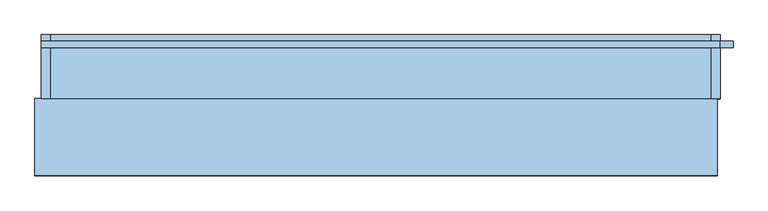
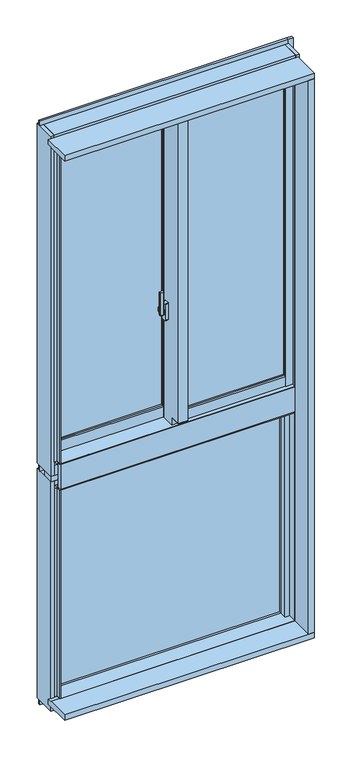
"""IFC4 building model written with IfcOpenShell, lengths in millimetres: window geometry, FNSⅡ100R_非防火_面付枠_段窓_分解無目 : 隠蔽突出排煙/框ドア."""

import ifcopenshell
import ifcopenshell.guid

model = None  # the IFC model being written
_history = None  # IfcOwnerHistory: only IFC2X3 demands one
_inside = {}  # id of a spatial element -> (the spatial element, [elements in it])
_under = {}  # id of a project, library or spatial element -> (it, [spatial elements below it])
_declared = {}  # id of a project -> (the project, [libraries it declares])
_typed = {}  # id of a type object -> (the type object, [elements of that type])
_made_of = {}  # id of a material, layer set ... -> (it, [elements and type objects made of it])


def new_model(schema):
    """Start an empty IFC model of exactly this schema.

    Asked for "IFC4X3", IfcOpenShell would pick the latest addendum, in which some entities
    have other attributes; the version numbers below select the first issue.
    IFC2X3 requires an IfcOwnerHistory on every rooted entity: one is made here for all.
    """
    global model, _history
    if schema == "IFC4X3":
        model = ifcopenshell.file(schema_version=(4, 3, 0, 0))
    else:
        model = ifcopenshell.file(schema=schema)
    _inside.clear()
    _under.clear()
    _declared.clear()
    _typed.clear()
    _made_of.clear()
    _history = None
    if model.schema == "IFC2X3":
        org = make("IfcOrganization", Name="unknown")
        user = make(
            "IfcPersonAndOrganization",
            ThePerson=make("IfcPerson", FamilyName="unknown"),
            TheOrganization=org,
        )
        app = make(
            "IfcApplication",
            ApplicationDeveloper=org,
            Version="unknown",
            ApplicationFullName="unknown",
            ApplicationIdentifier="unknown",
        )
        _history = make(
            "IfcOwnerHistory",
            OwningUser=user,
            OwningApplication=app,
            ChangeAction="ADDED",
            CreationDate=0,
        )
    return model


def make(cls, **values):
    """One entity of the class cls with the attributes given. An attribute that is None is left unset."""
    return model.create_entity(
        cls, **{name: value for name, value in values.items() if value is not None}
    )


def rooted(cls, **values):
    """An entity with a GlobalId (a new one), such as an element, a storey or a relation."""
    return make(cls, GlobalId=ifcopenshell.guid.new(), OwnerHistory=_history, **values)


def si_unit(unit_type, name, prefix=None):
    """IfcSIUnit, for example si_unit("LENGTHUNIT", "METRE", prefix="MILLI")."""
    return make("IfcSIUnit", UnitType=unit_type, Prefix=prefix, Name=name)


def assignment(units):
    """IfcUnitAssignment: the units of a project."""
    return None if units is None else make("IfcUnitAssignment", Units=units)


def point(xyz):
    """IfcCartesianPoint."""
    return None if xyz is None else make("IfcCartesianPoint", Coordinates=xyz)


def direction(xyz):
    """IfcDirection."""
    return None if xyz is None else make("IfcDirection", DirectionRatios=xyz)


def frame(location, z_axis=None, x_axis=None):
    """IfcAxis2Placement3D, a coordinate frame: its origin and axes. An axis left out is left unset."""
    return make(
        "IfcAxis2Placement3D",
        Location=point(location),
        Axis=direction(z_axis),
        RefDirection=direction(x_axis),
    )


def frame_2d(location, x_axis=None):
    """IfcAxis2Placement2D, a coordinate frame in the plane: its origin and x axis."""
    return make(
        "IfcAxis2Placement2D", Location=point(location), RefDirection=direction(x_axis)
    )


def origin():
    """The frame at (0, 0, 0) with its axes left unset."""
    return frame((0.0, 0.0, 0.0))


def place(relative_to, where):
    """IfcLocalPlacement: puts the frame where relative to a parent placement (None: the world)."""
    return make(
        "IfcLocalPlacement", PlacementRelTo=relative_to, RelativePlacement=where
    )


def context(
    kind, dimensions, precision=None, world=None, true_north=None, identifier=None
):
    """IfcGeometricRepresentationContext, for example the 3D "Model" context."""
    return make(
        "IfcGeometricRepresentationContext",
        ContextIdentifier=identifier,
        ContextType=kind,
        CoordinateSpaceDimension=dimensions,
        Precision=precision,
        WorldCoordinateSystem=world,
        TrueNorth=true_north,
    )


def project(units=None, contexts=None):
    """IfcProject with its units and contexts."""
    return rooted(
        "IfcProject",
        Name="project",
        RepresentationContexts=contexts,
        UnitsInContext=assignment(units),
    )


def spatial(cls, under=None, at=None, **own):
    """A site, building, storey or space (cls), placed at a placement, below another one or the project."""
    s = rooted(cls, ObjectPlacement=at, **own)
    if under is not None:
        _under.setdefault(under.id(), (under, []))[1].append(s)
    return s


def polyline(points):
    """IfcPolyline through the points."""
    return make("IfcPolyline", Points=[point(p) for p in points])


def circle_curve(where, radius):
    """IfcCircle in the frame where."""
    return make("IfcCircle", Position=where, Radius=radius)


def trimmed(basis, trim1, trim2, sense, master):
    """IfcTrimmedCurve: the piece of a basis curve between two trims."""
    return make(
        "IfcTrimmedCurve",
        BasisCurve=basis,
        Trim1=trim1,
        Trim2=trim2,
        SenseAgreement=sense,
        MasterRepresentation=master,
    )


def segment(curve, same_sense, transition):
    """IfcCompositeCurveSegment."""
    return make(
        "IfcCompositeCurveSegment",
        Transition=transition,
        SameSense=same_sense,
        ParentCurve=curve,
    )


def composite_curve(segments, self_intersect=None):
    """IfcCompositeCurve: segments joined end to end."""
    return make("IfcCompositeCurve", Segments=segments, SelfIntersect=self_intersect)


def outline(outer, holes=None, kind="AREA"):
    """IfcArbitraryClosedProfileDef: a profile drawn as a closed curve; with holes, ...WithVoids."""
    if holes is None:
        return make("IfcArbitraryClosedProfileDef", ProfileType=kind, OuterCurve=outer)
    return make(
        "IfcArbitraryProfileDefWithVoids",
        ProfileType=kind,
        OuterCurve=outer,
        InnerCurves=holes,
    )


def extrude(swept, where, along, depth):
    """IfcExtrudedAreaSolid: the profile swept, set in the frame where, extruded along a direction by depth."""
    return make(
        "IfcExtrudedAreaSolid",
        SweptArea=swept,
        Position=where,
        ExtrudedDirection=direction(along),
        Depth=depth,
    )


def faces_of(points, faces, orient=None, outer=None):
    """IfcFace entities. A face is a list of loops; a loop is a list of indices into points, from 0.

    orient and outer hold one flag for each loop. By default every Orientation is true, the
    first loop of a face is its IfcFaceOuterBound and the others are IfcFaceBound.
    """
    made = []
    for i, loops in enumerate(faces):
        bounds = []
        for j, loop in enumerate(loops):
            is_outer = j == 0 if outer is None else outer[i][j]
            bounds.append(
                make(
                    "IfcFaceOuterBound" if is_outer else "IfcFaceBound",
                    Bound=make("IfcPolyLoop", Polygon=[points[k] for k in loop]),
                    Orientation=True if orient is None else orient[i][j],
                )
            )
        made.append(make("IfcFace", Bounds=bounds))
    return made


def faceted_brep(points, faces, orient=None, outer=None, voids=None):
    """IfcFacetedBrep: a solid bounded by flat faces; with voids (closed shells), ...WithVoids."""
    shared = [point(p) for p in points]
    hull = make("IfcClosedShell", CfsFaces=faces_of(shared, faces, orient, outer))
    if voids is None:
        return make("IfcFacetedBrep", Outer=hull)
    return make(
        "IfcFacetedBrepWithVoids",
        Outer=hull,
        Voids=[
            make(cls, CfsFaces=faces_of(shared, fs, o, b)) for cls, fs, o, b in voids
        ],
    )


def shape(context_of_items, identifier, shape_type, items):
    """IfcShapeRepresentation: the items that make up one representation, for example the "Body"."""
    return make(
        "IfcShapeRepresentation",
        ContextOfItems=context_of_items,
        RepresentationIdentifier=identifier,
        RepresentationType=shape_type,
        Items=items,
    )


def source(mapping_origin, context_of_items, identifier, shape_type, items):
    """IfcRepresentationMap: a shape defined once, which mapped items show again and again."""
    return make(
        "IfcRepresentationMap",
        MappingOrigin=mapping_origin,
        MappedRepresentation=shape(context_of_items, identifier, shape_type, items),
    )


def transform(
    local_origin,
    x_axis=None,
    y_axis=None,
    z_axis=None,
    scale=None,
    scale2=None,
    scale3=None,
    uniform=True,
):
    """IfcCartesianTransformationOperator3D, or its non-uniform kind. x_axis, y_axis, z_axis: its Axis1, 2, 3."""
    if uniform:
        return make(
            "IfcCartesianTransformationOperator3D",
            Axis1=direction(x_axis),
            Axis2=direction(y_axis),
            LocalOrigin=point(local_origin),
            Scale=scale,
            Axis3=direction(z_axis),
        )
    return make(
        "IfcCartesianTransformationOperator3DnonUniform",
        Axis1=direction(x_axis),
        Axis2=direction(y_axis),
        LocalOrigin=point(local_origin),
        Scale=scale,
        Axis3=direction(z_axis),
        Scale2=scale2,
        Scale3=scale3,
    )


def mapped(mapping_source, mapping_target):
    """IfcMappedItem: shows the shape of a source again, moved by a transform."""
    return make(
        "IfcMappedItem", MappingSource=mapping_source, MappingTarget=mapping_target
    )


def made_of(thing, what):
    """Note that an element or type object is made of a material, layer set ...; save() writes the relation."""
    if what is not None:
        _made_of.setdefault(what.id(), (what, []))[1].append(thing)
    return thing


def element(
    cls,
    number,
    at=None,
    inside=None,
    cuts=None,
    type_object=None,
    material=None,
    context=None,
    identifier="Body",
    shape_type=None,
    held_by="IfcProductDefinitionShape",
    body=None,
    shapes=None,
    **own,
):
    """One element of the class cls, such as IfcWall. Its Tag is "e" and its number.

    at: its placement. inside: the storey or other place that contains it. cuts: it is an
    opening in that element (IfcRelVoidsElement). A single representation is given by context,
    identifier, shape_type and body (its items); several are given by shapes. held_by: the class
    of the entity that holds the representations. save() writes the other relations.
    """
    e = rooted(cls, Tag="e%d" % number, ObjectPlacement=at, **own)
    if body is not None:
        shapes = [shape(context, identifier, shape_type, body)]
    if shapes is not None:
        e.Representation = make(held_by, Representations=shapes)
    if inside is not None:
        _inside.setdefault(inside.id(), (inside, []))[1].append(e)
    if cuts is not None:
        rooted(
            "IfcRelVoidsElement", RelatingBuildingElement=cuts, RelatedOpeningElement=e
        )
    if type_object is not None:
        _typed.setdefault(type_object.id(), (type_object, []))[1].append(e)
    return made_of(e, material)


def aggregate(whole, parts):
    """IfcRelAggregates: a whole, such as a stair, and the parts it consists of."""
    return rooted("IfcRelAggregates", RelatingObject=whole, RelatedObjects=parts)


def save(model, path):
    """Write the relations noted so far, then the file.

    IfcRelAggregates (storeys below a building ...), IfcRelContainedInSpatialStructure (elements
    in a storey), IfcRelDefinesByType, IfcRelAssociatesMaterial and IfcRelDeclares: one each for
    every whole, place, type object, material and project.
    """
    for whole, parts in _under.values():
        aggregate(whole, parts)
    for where, things in _inside.values():
        rooted(
            "IfcRelContainedInSpatialStructure",
            RelatedElements=things,
            RelatingStructure=where,
        )
    for kind, things in _typed.values():
        rooted("IfcRelDefinesByType", RelatedObjects=things, RelatingType=kind)
    for what, things in _made_of.values():
        rooted("IfcRelAssociatesMaterial", RelatedObjects=things, RelatingMaterial=what)
    for by, libraries in _declared.values():
        rooted("IfcRelDeclares", RelatingContext=by, RelatedDefinitions=libraries)
    model.write(path)


def plane_surface(at):
    """IfcPlane: the flat surface through the origin of the frame at, square to its z axis."""
    return make("IfcPlane", Position=at)


def cylinder_surface(at, radius):
    """IfcCylindricalSurface: all points at the distance radius from the z axis of the frame at."""
    return make("IfcCylindricalSurface", Position=at, Radius=radius)


def revolved_surface(curve, axis_point, axis_direction):
    """IfcSurfaceOfRevolution: the curve turned about the line through axis_point along axis_direction."""
    return make(
        "IfcSurfaceOfRevolution",
        SweptCurve=make("IfcArbitraryOpenProfileDef", ProfileType="CURVE", Curve=curve),
        AxisPosition=make("IfcAxis1Placement", Location=point(axis_point), Axis=direction(axis_direction)),
    )


def advanced_brep(points, edges, surfaces, faces):
    """IfcAdvancedBrep: a solid bounded by faces that lie on surfaces and meet in shared edges.

    An edge is (start, end): straight between two places in points (the first is 0);
    or (start, end, curve); or (start, end, curve, False) where it runs against its curve.
    A face is (place in surfaces, loops), or (place, loops, False) where it looks against
    its surface's normal. A loop lists edges by number (the first is 1), with a minus sign
    where the edge is run from its end to its start. The first loop is the outer one.
    """
    corners = [point(p) for p in points]
    vertices = [make("IfcVertexPoint", VertexGeometry=c) for c in corners]
    made = []
    for start, end, *more in edges:
        made.append(
            make(
                "IfcEdgeCurve",
                EdgeStart=vertices[start],
                EdgeEnd=vertices[end],
                EdgeGeometry=more[0] if more else make("IfcPolyline", Points=[corners[start], corners[end]]),
                SameSense=more[1] if len(more) > 1 else True,
            )
        )
    hull = []
    for where, loops, *sense in faces:
        bounds = []
        for j, loop in enumerate(loops):
            ring = [make("IfcOrientedEdge", EdgeElement=made[abs(k) - 1], Orientation=k > 0) for k in loop]
            bounds.append(
                make(
                    "IfcFaceOuterBound" if j == 0 else "IfcFaceBound",
                    Bound=make("IfcEdgeLoop", EdgeList=ring),
                    Orientation=True,
                )
            )
        hull.append(make("IfcAdvancedFace", Bounds=bounds, FaceSurface=surfaces[where], SameSense=sense[0] if sense else True))
    return make("IfcAdvancedBrep", Outer=make("IfcClosedShell", CfsFaces=hull))


def window_3c39c778(model_context):
    return source(origin(), model_context, "Body", "SolidModel", [
        extrude(outline(composite_curve([segment(polyline([(-39.0, 34.6), (-39.0, 26.4)]), True, "CONTINUOUS"), segment(trimmed(circle_curve(frame_2d((-41.0, 26.4)), 2.0), [point((-39.0, 26.4))], [point((-41.3606557, 24.4327869))], False, "CARTESIAN"), True, "CONTINUOUS"), segment(polyline([(-41.3606557, 24.4327869), (-52.3606557, 26.4494536)]), True, "CONTINUOUS"), segment(trimmed(circle_curve(frame_2d((-52.0, 28.4166667)), 2.0), [point((-52.3606557, 26.4494536))], [point((-54.0, 28.4166667))], False, "CARTESIAN"), True, "CONTINUOUS"), segment(polyline([(-54.0, 28.4166667), (-54.0, 32.5833333)]), True, "CONTINUOUS"), segment(trimmed(circle_curve(frame_2d((-52.0, 32.5833333)), 2.0), [point((-54.0, 32.5833333))], [point((-52.3606557, 34.5505464))], False, "CARTESIAN"), True, "CONTINUOUS"), segment(polyline([(-52.3606557, 34.5505464), (-41.3606557, 36.5672131)]), True, "CONTINUOUS"), segment(trimmed(circle_curve(frame_2d((-41.0, 34.6)), 2.0), [point((-41.3606557, 36.5672131))], [point((-39.0, 34.6))], False, "CARTESIAN"), True, "CONTINUOUS")], self_intersect=False)), frame((0.0, 0.0, 2450.0), z_axis=(0.0, 0.0, 1.0), x_axis=(1.0, 0.0, 0.0)), (0.0, 0.0, 1.0), 100.0),
        advanced_brep(
        [(-37.5, 38.8234285, 2481.7333311), (-45.5, 38.8234285, 2481.7333311), (-45.5, 38.4351999, 2480.2844424), (-39.0, 38.4351999, 2480.2844424), (-39.0, 36.6234666, 2473.5229616), (-37.5, 36.6234666, 2473.5229616), (-39.0, 36.6466117, 2439.3190372), (-45.5, 36.6466117, 2439.3190372), (-45.5, 36.907084, 2437.8418256), (-37.5, 36.907084, 2437.8418256), (-37.5, 35.4310745, 2446.2126915), (-39.0, 35.4310745, 2446.2126915)],
        [
            (0, 1),
            (1, 2),
            (2, 3),
            (3, 4),
            (4, 5),
            (5, 0),
            (6, 7),
            (7, 8),
            (8, 9),
            (9, 10),
            (10, 11),
            (11, 6),
            (0, 9, circle_curve(frame((-37.5, 33.0, 2460.0), z_axis=(-1.0, 0.0, 0.0), x_axis=(0.0, 0.25881904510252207, 0.965925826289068)), 22.5)),
            (8, 1, circle_curve(frame((-45.5, 33.0, 2460.0), z_axis=(1.0, 0.0, 0.0), x_axis=(0.0, 0.25881904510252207, 0.965925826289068)), 22.5)),
            (7, 2, circle_curve(frame((-45.5, 33.0, 2460.0), z_axis=(1.0, 0.0, 0.0), x_axis=(0.0, 0.25881904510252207, 0.965925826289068)), 21.0)),
            (6, 3, circle_curve(frame((-39.0, 33.0, 2460.0), z_axis=(1.0, 0.0, 0.0), x_axis=(0.0, 0.25881904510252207, 0.965925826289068)), 21.0)),
            (11, 4, circle_curve(frame((-39.0, 33.0, 2460.0), z_axis=(-1.0, 0.0, 0.0), x_axis=(0.0, -1.0, 0.0)), 14.0)),
            (5, 10, circle_curve(frame((-37.5, 33.0, 2460.0), z_axis=(1.0, 0.0, 0.0), x_axis=(0.0, -1.0, 0.0)), 14.0)),
        ],
        [
            plane_surface(frame((-43.5470497, 33.0, 2460.0), z_axis=(0.0, -0.965925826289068, 0.25881904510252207), x_axis=(0.0, 0.25881904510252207, 0.965925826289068))),
            plane_surface(frame((-43.5470497, 33.0, 2460.0), z_axis=(0.0, -0.9848077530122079, -0.17364817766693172), x_axis=(0.0, 0.17364817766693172, -0.9848077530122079))),
            cylinder_surface(frame((-43.5470497, 33.0, 2460.0), z_axis=(-1.0, 0.0, 0.0), x_axis=(0.0, 0.25881904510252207, 0.965925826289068)), 22.5),
            plane_surface(frame((-45.5, 33.0, 2460.0), z_axis=(-1.0, 0.0, 0.0), x_axis=(0.0, 0.25881904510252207, 0.965925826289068))),
            revolved_surface(polyline([(-45.5, 38.43519994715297, 2480.2844423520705), (-39.0, 38.43519994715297, 2480.2844423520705)]), (-43.5470497, 33.0, 2460.0), (-1.0, 0.0, 0.0)),
            plane_surface(frame((-39.0, 33.0, 2460.0), z_axis=(-1.0, 0.0, 0.0), x_axis=(0.0, 0.25881904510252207, 0.965925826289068))),
            plane_surface(frame((-37.5, 33.0, 2460.0), z_axis=(1.0, 0.0, 0.0), x_axis=(0.0, 0.25881904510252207, 0.965925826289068))),
            cylinder_surface(frame((-37.5, 33.0, 2460.0), z_axis=(-1.0, 0.0, 0.0), x_axis=(0.0, -1.0, 0.0)), 14.0),
        ],
        [
            (0, [[1, 2, 3, 4, 5, 6]]),
            (1, [[7, 8, 9, 10, 11, 12]]),
            (2, [[-1, 13, -9, 14]]),
            (3, [[-2, -14, -8, 15]]),
            (4, [[-3, -15, -7, 16]]),
            (5, [[-16, -12, 17, -4]]),
            (6, [[-13, -6, 18, -10]]),
            (7, [[-17, -11, -18, -5]]),
        ],
    ),
        extrude(outline(composite_curve([segment(trimmed(circle_curve(frame_2d((33.0, 2460.0)), 11.5), [point((44.5, 2460.0))], [point((21.5, 2460.0))], False, "CARTESIAN"), True, "CONTINUOUS"), segment(trimmed(circle_curve(frame_2d((33.0, 2460.0)), 11.5), [point((21.5, 2460.0))], [point((44.5, 2460.0))], False, "CARTESIAN"), True, "CONTINUOUS")], self_intersect=False)), frame((-37.5, 0.0, 0.0), z_axis=(1.0, 0.0, 0.0), x_axis=(0.0, 1.0, 0.0)), (0.0, 0.0, 1.0), 2.5),
        extrude(outline(composite_curve([segment(polyline([(24.0, 2497.5), (42.0, 2497.5)]), True, "CONTINUOUS"), segment(trimmed(circle_curve(frame_2d((42.0, 2495.5)), 2.0), [point((42.0, 2497.5))], [point((44.0, 2495.5))], False, "CARTESIAN"), True, "CONTINUOUS"), segment(polyline([(44.0, 2495.5), (44.0, 2424.5)]), True, "CONTINUOUS"), segment(trimmed(circle_curve(frame_2d((42.0, 2424.5)), 2.0), [point((44.0, 2424.5))], [point((42.0, 2422.5))], False, "CARTESIAN"), True, "CONTINUOUS"), segment(polyline([(42.0, 2422.5), (24.0, 2422.5)]), True, "CONTINUOUS"), segment(trimmed(circle_curve(frame_2d((24.0, 2424.5)), 2.0), [point((24.0, 2422.5))], [point((22.0, 2424.5))], False, "CARTESIAN"), True, "CONTINUOUS"), segment(polyline([(22.0, 2424.5), (22.0, 2495.5)]), True, "CONTINUOUS"), segment(trimmed(circle_curve(frame_2d((24.0, 2495.5)), 2.0), [point((22.0, 2495.5))], [point((24.0, 2497.5))], False, "CARTESIAN"), True, "CONTINUOUS")], self_intersect=False)), frame((-35.0, 0.0, 0.0), z_axis=(1.0, 0.0, 0.0), x_axis=(0.0, 1.0, 0.0)), (0.0, 0.0, 1.0), 15.0),
        extrude(outline(polyline([(20.0, 24.0), (468.0, 24.0), (468.0, 18.0), (20.0, 18.0), (20.0, 24.0)])), frame((0.0, 0.0, 2008.0), z_axis=(0.0, 0.0, 1.0), x_axis=(1.0, 0.0, 0.0)), (0.0, 0.0, 1.0), 1352.0),
        extrude(outline(polyline([(20.0, 42.0), (468.0, 42.0), (468.0, 36.0), (20.0, 36.0), (20.0, 42.0)])), frame((0.0, 0.0, 2008.0), z_axis=(0.0, 0.0, 1.0), x_axis=(1.0, 0.0, 0.0)), (0.0, 0.0, 1.0), 1352.0),
        extrude(outline(polyline([(-468.0, 82.0), (-20.0, 82.0), (-20.0, 76.0), (-468.0, 76.0), (-468.0, 82.0)])), frame((0.0, 0.0, 2008.0), z_axis=(0.0, 0.0, 1.0), x_axis=(1.0, 0.0, 0.0)), (0.0, 0.0, 1.0), 1352.0),
        extrude(outline(polyline([(-468.0, 100.0), (-20.0, 100.0), (-20.0, 94.0), (-468.0, 94.0), (-468.0, 100.0)])), frame((0.0, 0.0, 2008.0), z_axis=(0.0, 0.0, 1.0), x_axis=(1.0, 0.0, 0.0)), (0.0, 0.0, 1.0), 1352.0),
        faceted_brep([(-500.0, 79.0, 3400.0), (-489.5, 79.0, 3400.0), (-489.5, 66.0, 3400.0), (-468.0, 66.0, 3400.0), (-468.0, 108.0, 3400.0), (-500.0, 108.0, 3400.0), (-468.0, 79.0, 1920.0), (-500.0, 79.0, 1920.0), (-500.0, 108.0, 1920.0), (-468.0, 108.0, 1920.0), (-468.0, 79.0, 1960.0), (-489.5, 79.0, 1960.0), (-489.5, 66.0, 1960.0), (-468.0, 66.0, 1960.0)], [[[0, 1, 2, 3, 4, 5]], [[6, 7, 8, 9]], [[1, 0, 7, 6, 10, 11]], [[2, 1, 11, 12]], [[3, 2, 12, 13]], [[4, 3, 13, 10, 6, 9]], [[5, 4, 9, 8]], [[7, 0, 5, 8]], [[11, 10, 13, 12]]]),
        faceted_brep([(-20.0, 65.5, 3400.0), (-1.8, 65.5, 3400.0), (-1.8, 53.1, 3400.0), (20.0, 53.1, 3400.0), (20.0, 108.0, 3400.0), (-20.0, 108.0, 3400.0), (-20.0, 108.0, 1920.0), (20.0, 108.0, 1920.0), (20.0, 79.0, 1920.0), (-20.0, 79.0, 1920.0), (-20.0, 65.5, 1960.0), (-1.8, 65.5, 1960.0), (-1.8, 53.1, 1960.0), (20.0, 53.1, 1960.0), (20.0, 79.0, 1960.0), (-20.0, 79.0, 1960.0)], [[[0, 1, 2, 3, 4, 5]], [[6, 7, 8, 9]], [[1, 0, 10, 11]], [[2, 1, 11, 12]], [[3, 2, 12, 13]], [[4, 3, 13, 14, 8, 7]], [[5, 4, 7, 6]], [[0, 5, 6, 9, 15, 10]], [[14, 15, 9, 8]], [[15, 14, 13, 12, 11, 10]]]),
        faceted_brep([(-15.0, 53.1, 3400.0), (-20.0, 53.1, 3400.0), (-20.0, 0.0, 3400.0), (-15.0, 0.0, 3400.0), (20.0, 12.0, 3400.0), (15.0, 12.0, 3400.0), (15.0, 0.0, 3400.0), (20.0, 0.0, 3400.0), (-20.0, 53.1, 1960.0), (-15.0, 53.1, 1960.0), (-15.0, 0.0, 1960.0), (-20.0, 0.0, 1960.0), (15.0, 12.0, 1960.0), (20.0, 12.0, 1960.0), (20.0, 0.0, 1960.0), (15.0, 0.0, 1960.0), (-20.0, 0.0, 1996.5), (-20.0, -50.0, 1996.5), (-20.0, -50.0, 3371.0), (-20.0, 0.0, 3371.0), (20.0, -50.0, 1996.5), (20.0, -50.0, 3371.0), (20.0, 0.0, 3371.0), (20.0, 0.0, 1996.5), (15.0, -42.0, 3371.0), (15.0, -42.0, 1996.5), (-15.0, -42.0, 1996.5), (-15.0, -42.0, 3371.0), (-15.0, 0.0, 3371.0), (-15.0, 0.0, 1996.5), (15.0, 0.0, 1996.5), (15.0, 0.0, 3371.0)], [[[0, 1, 2, 3]], [[4, 5, 6, 7]], [[8, 9, 10, 11]], [[12, 13, 14, 15]], [[1, 8, 11, 16, 17, 18, 19, 2]], [[18, 17, 20, 21]], [[13, 4, 7, 22, 21, 20, 23, 14]], [[24, 25, 26, 27]], [[9, 0, 3, 28, 27, 26, 29, 10]], [[1, 0, 9, 8]], [[5, 4, 13, 12]], [[5, 12, 15, 30, 25, 24, 31, 6]], [[29, 16, 11, 10]], [[23, 30, 15, 14]], [[16, 29, 26, 25, 30, 23, 20, 17]], [[28, 19, 18, 21, 22, 31, 24, 27]], [[19, 28, 3, 2]], [[31, 22, 7, 6]]]),
        faceted_brep([(15.0, 12.0, 3400.0), (20.0, 12.0, 3400.0), (20.0, 53.1, 3400.0), (-15.0, 53.1, 3400.0), (-15.0, 0.0, 3400.0), (15.0, 0.0, 3400.0), (-15.0, 53.1, 1960.0), (20.0, 53.1, 1960.0), (20.0, 12.0, 1960.0), (15.0, 12.0, 1960.0), (15.0, 0.0, 1960.0), (-15.0, 0.0, 1960.0), (-15.0, 0.0, 1996.5), (-15.0, -42.0, 1996.5), (-15.0, -42.0, 3371.0), (-15.0, 0.0, 3371.0), (15.0, -42.0, 1996.5), (15.0, -42.0, 3371.0), (15.0, 0.0, 1996.5), (15.0, 0.0, 3371.0)], [[[0, 1, 2, 3, 4, 5]], [[6, 7, 8, 9, 10, 11]], [[3, 6, 11, 12, 13, 14, 15, 4]], [[14, 13, 16, 17]], [[2, 1, 8, 7]], [[3, 2, 7, 6]], [[18, 12, 11, 10]], [[12, 18, 16, 13]], [[19, 15, 14, 17]], [[15, 19, 5, 4]], [[9, 0, 5, 19, 17, 16, 18, 10]], [[1, 0, 9, 8]]]),
        extrude(outline(polyline([(468.0, 0.0), (468.0, 8.0), (489.5, 8.0), (489.5, 21.0), (497.0, 21.0), (497.0, 0.0), (468.0, 0.0)])), frame((0.0, 0.0, 1963.0), z_axis=(0.0, 0.0, 1.0), x_axis=(1.0, 0.0, 0.0)), (0.0, 0.0, 1.0), 1437.0),
        extrude(outline(polyline([(468.0, 50.0), (500.0, 50.0), (500.0, 21.0), (489.5, 21.0), (489.5, 8.0), (468.0, 8.0), (468.0, 50.0)])), frame((0.0, 0.0, 1960.0), z_axis=(0.0, 0.0, 1.0), x_axis=(1.0, 0.0, 0.0)), (0.0, 0.0, 1.0), 1440.0),
        extrude(outline(polyline([(-1.85, 65.5), (-1.85, 58.0), (-20.0, 58.0), (-20.0, 65.5), (-1.85, 65.5)])), frame((0.0, 0.0, 1960.0), z_axis=(0.0, 0.0, 1.0), x_axis=(1.0, 0.0, 0.0)), (0.0, 0.0, 1.0), 1440.0),
        extrude(outline(polyline([(-497.0, 79.0), (-489.5, 79.0), (-489.5, 66.0), (-468.0, 66.0), (-468.0, 58.0), (-497.0, 58.0), (-497.0, 79.0)])), frame((0.0, 0.0, 1960.0), z_axis=(0.0, 0.0, 1.0), x_axis=(1.0, 0.0, 0.0)), (0.0, 0.0, 1.0), 1440.0),
        extrude(outline(polyline([(2.0, 1963.0), (2.0, 2008.0), (10.0, 2008.0), (10.0, 1985.5), (21.0, 1985.5), (21.0, 1963.0), (2.0, 1963.0)])), frame((20.0, 0.0, 0.0), z_axis=(1.0, 0.0, 0.0), x_axis=(0.0, 1.0, 0.0)), (0.0, 0.0, 1.0), 448.0),
        extrude(outline(polyline([(50.0, 1960.0), (21.0, 1960.0), (21.0, 1985.5), (10.0, 1985.5), (10.0, 2008.0), (50.0, 2008.0), (50.0, 1960.0)])), frame((20.0, 0.0, 0.0), z_axis=(1.0, 0.0, 0.0), x_axis=(0.0, 1.0, 0.0)), (0.0, 0.0, 1.0), 448.0),
        extrude(outline(polyline([(60.0, 2008.0), (68.0, 2008.0), (68.0, 1985.5), (79.0, 1985.5), (79.0, 1960.0), (60.0, 1960.0), (60.0, 2008.0)])), frame((-468.0, 0.0, 0.0), z_axis=(1.0, 0.0, 0.0), x_axis=(0.0, 1.0, 0.0)), (0.0, 0.0, 1.0), 448.0),
        extrude(outline(polyline([(108.0, 1920.0), (79.0, 1920.0), (79.0, 1985.5), (68.0, 1985.5), (68.0, 2008.0), (108.0, 2008.0), (108.0, 1920.0)])), frame((-468.0, 0.0, 0.0), z_axis=(1.0, 0.0, 0.0), x_axis=(0.0, 1.0, 0.0)), (0.0, 0.0, 1.0), 448.0),
        extrude(outline(polyline([(23.0, 3380.5), (10.0, 3380.5), (10.0, 3360.0), (2.0, 3360.0), (2.0, 3400.0), (23.0, 3400.0), (23.0, 3380.5)])), frame((20.0, 0.0, 0.0), z_axis=(1.0, 0.0, 0.0), x_axis=(0.0, 1.0, 0.0)), (0.0, 0.0, 1.0), 448.0),
        extrude(outline(polyline([(50.0, 3400.0), (50.0, 3360.0), (10.0, 3360.0), (10.0, 3380.5), (23.0, 3380.5), (23.0, 3400.0), (50.0, 3400.0)])), frame((20.0, 0.0, 0.0), z_axis=(1.0, 0.0, 0.0), x_axis=(0.0, 1.0, 0.0)), (0.0, 0.0, 1.0), 448.0),
        extrude(outline(polyline([(81.0, 3380.5), (68.0, 3380.5), (68.0, 3360.0), (60.0, 3360.0), (60.0, 3400.0), (81.0, 3400.0), (81.0, 3380.5)])), frame((-468.0, 0.0, 0.0), z_axis=(1.0, 0.0, 0.0), x_axis=(0.0, 1.0, 0.0)), (0.0, 0.0, 1.0), 448.0),
        extrude(outline(polyline([(108.0, 3400.0), (108.0, 3360.0), (68.0, 3360.0), (68.0, 3380.5), (81.0, 3380.5), (81.0, 3400.0), (108.0, 3400.0)])), frame((-468.0, 0.0, 0.0), z_axis=(1.0, 0.0, 0.0), x_axis=(0.0, 1.0, 0.0)), (0.0, 0.0, 1.0), 448.0),
        extrude(outline(polyline([(0.0, 3371.0), (-50.0, 3371.0), (-50.0, 3372.0), (-1.0, 3372.0), (-1.0, 3400.0), (0.0, 3400.0), (0.0, 3371.0)])), frame((-20.0, 0.0, 0.0), z_axis=(1.0, 0.0, 0.0), x_axis=(0.0, 1.0, 0.0)), (0.0, 0.0, 1.0), 40.0),
        extrude(outline(polyline([(0.0, 1996.5), (0.0, 1960.0), (-1.0, 1960.0), (-1.0, 1995.5), (-50.0, 1995.5), (-50.0, 1996.5), (0.0, 1996.5)])), frame((-20.0, 0.0, 0.0), z_axis=(1.0, 0.0, 0.0), x_axis=(0.0, 1.0, 0.0)), (0.0, 0.0, 1.0), 40.0),
        extrude(outline(polyline([(-15.0, 80.3), (-15.0, 31.9), (-500.0, 31.9), (-500.0, 80.3), (-15.0, 80.3)])), frame((0.0, 0.0, 3400.0), z_axis=(0.0, 0.0, 1.0), x_axis=(1.0, 0.0, 0.0)), (0.0, 0.0, 1.0), 25.0),
        faceted_brep([(515.0, 80.3, 3400.0), (515.0, 80.3, 3425.0), (500.0, 80.3, 3425.0), (500.0, 80.3, 3400.0), (-515.0, 80.3, 3425.0), (-515.0, 80.3, 3400.0), (-15.0, 80.3, 3400.0), (-15.0, 80.3, 3425.0), (515.0, 10.0, 3425.0), (-515.0, 10.0, 3425.0), (-15.0, 31.9, 3425.0), (500.0, 31.9, 3425.0), (515.0, 110.0, 3400.0), (500.0, 31.9, 3400.0), (-15.0, 31.9, 3400.0), (-515.0, 110.0, 3400.0), (515.0, 110.0, 3435.0), (-515.0, 110.0, 3435.0), (515.0, 10.0, 3435.0), (-515.0, 10.0, 3435.0)], [[[0, 1, 2, 3]], [[4, 5, 6, 7]], [[1, 8, 9, 4, 7, 10, 11, 2]], [[12, 0, 3, 13, 14, 6, 5, 15]], [[16, 12, 15, 17]], [[18, 16, 17, 19]], [[8, 18, 19, 9]], [[12, 16, 18, 8, 1, 0]], [[15, 5, 4, 9, 19, 17]], [[11, 13, 3, 2]], [[6, 14, 10, 7]], [[13, 11, 10, 14]]]),
        extrude(outline(polyline([(31.9, 3400.0), (-10.0, 3400.0), (-10.0, 3403.0), (10.0, 3403.0), (10.0, 3425.0), (31.9, 3425.0), (31.9, 3400.0)])), frame((-500.0, 0.0, 0.0), z_axis=(1.0, 0.0, 0.0), x_axis=(0.0, 1.0, 0.0)), (0.0, 0.0, 1.0), 1000.0),
        faceted_brep([(500.0, 10.0, 3420.0), (500.0, 10.0, 3403.0), (503.0, 10.0, 3403.0), (503.0, 10.0, 1960.0), (515.0, 10.0, 1960.0), (515.0, 10.0, 3420.0), (500.0, 14.5, 1960.0), (500.0, -10.0, 1960.0), (500.0, -10.0, 3403.0), (500.0, 14.5, 3420.0), (515.0, 14.5, 1960.0), (503.0, -10.0, 1960.0), (515.0, 14.5, 3420.0), (503.0, -10.0, 3403.0)], [[[0, 1, 2, 3, 4, 5]], [[6, 7, 8, 1, 0, 9]], [[7, 6, 10, 4, 3, 11]], [[0, 5, 12, 9]], [[7, 11, 13, 8]], [[11, 3, 2, 13]], [[12, 5, 4, 10]], [[9, 12, 10, 6]], [[2, 1, 8, 13]]]),
        faceted_brep([(-515.0, 76.0, 3420.0), (-500.0, 76.0, 3420.0), (-500.0, 76.0, 1960.0), (-515.0, 76.0, 1960.0), (-515.0, 10.0, 1960.0), (-500.0, -10.0, 1960.0), (-503.0, -10.0, 1960.0), (-503.0, 10.0, 1960.0), (-515.0, 10.0, 3420.0), (-500.0, 10.0, 3420.0), (-503.0, 10.0, 3403.0), (-500.0, 10.0, 3403.0), (-503.0, -10.0, 3403.0), (-500.0, -10.0, 3403.0)], [[[0, 1, 2, 3]], [[4, 3, 2, 5, 6, 7]], [[8, 9, 1, 0]], [[4, 7, 10, 11, 9, 8]], [[7, 6, 12, 10]], [[6, 5, 13, 12]], [[5, 2, 1, 9, 11, 13]], [[4, 8, 0, 3]], [[11, 10, 12, 13]]]),
        faceted_brep([(500.0, 14.5, 3400.0), (500.0, 110.0, 3400.0), (500.0, 110.0, 1909.0), (500.0, 14.5, 1909.0), (515.0, 14.5, 3400.0), (515.0, 14.5, 1909.0), (515.0, 10.0, 3435.0), (530.0, 10.0, 3435.0), (530.0, 110.0, 3435.0), (515.0, 110.0, 3435.0), (515.0, 10.0, 1900.0), (515.0, 110.0, 1900.0), (530.0, 110.0, 1900.0), (530.0, 10.0, 1900.0), (515.0, 110.0, 3400.0), (515.0, 110.0, 1909.0)], [[[0, 1, 2, 3]], [[4, 0, 3, 5]], [[6, 7, 8, 9]], [[10, 11, 12, 13]], [[0, 4, 14, 1]], [[3, 2, 15, 5]], [[7, 6, 10, 13]], [[8, 7, 13, 12]], [[9, 8, 12, 11, 15, 2, 1, 14]], [[6, 9, 14, 4, 5, 15, 11, 10]]]),
        faceted_brep([(-530.0, 10.0, 3435.0), (-530.0, 110.0, 3435.0), (-530.0, 110.0, 1900.0), (-530.0, 10.0, 1900.0), (-515.0, 110.0, 3435.0), (-515.0, 10.0, 3435.0), (-515.0, 10.0, 1900.0), (-515.0, 110.0, 1900.0), (-515.0, 110.0, 1909.0), (-515.0, 76.0, 1909.0), (-515.0, 76.0, 3400.0), (-515.0, 110.0, 3400.0), (-500.0, 110.0, 3400.0), (-500.0, 110.0, 1909.0), (-500.0, 76.0, 3400.0), (-500.0, 76.0, 1909.0)], [[[0, 1, 2, 3]], [[4, 5, 6, 7, 8, 9, 10, 11]], [[1, 0, 5, 4]], [[2, 7, 6, 3]], [[5, 0, 3, 6]], [[1, 4, 11, 12, 13, 8, 7, 2]], [[12, 11, 10, 14]], [[13, 15, 9, 8]], [[14, 10, 9, 15]], [[12, 14, 15, 13]]]),
        faceted_brep([(515.0, 10.0, 1944.0), (515.0, 76.0, 1944.0), (-515.0, 76.0, 1944.0), (-515.0, 10.0, 1944.0), (500.0, 37.25, 1944.0), (500.0, 18.8, 1944.0), (-15.0, 18.8, 1944.0), (-15.0, 37.25, 1944.0), (515.0, 76.0, 1909.0), (-515.0, 76.0, 1909.0), (515.0, 110.0, 1909.0), (-515.0, 110.0, 1909.0), (515.0, 110.0, 1900.0), (515.0, 10.0, 1900.0), (-515.0, 10.0, 1900.0), (-515.0, 110.0, 1900.0), (500.0, 18.8, 1960.0), (500.0, 37.25, 1960.0), (-15.0, 18.8, 1960.0), (-15.0, 37.25, 1960.0)], [[[0, 1, 2, 3], [4, 5, 6, 7]], [[1, 8, 9, 2]], [[8, 10, 11, 9]], [[12, 13, 14, 15]], [[12, 10, 8, 1, 0, 13]], [[15, 14, 3, 2, 9, 11]], [[13, 0, 3, 14]], [[10, 12, 15, 11]], [[16, 5, 4, 17]], [[18, 19, 7, 6]], [[5, 16, 18, 6]], [[17, 4, 7, 19]], [[16, 17, 19, 18]]]),
        faceted_brep([(503.0, -10.0, 1960.0), (503.0, -10.0, 1957.0), (503.0, 10.0, 1957.0), (503.0, 10.0, 1944.0), (503.0, 14.5, 1944.0), (503.0, 14.5, 1960.0), (-503.0, 10.0, 1944.0), (-503.0, 10.0, 1957.0), (-503.0, -10.0, 1957.0), (-503.0, -10.0, 1960.0), (-503.0, 18.8, 1960.0), (-503.0, 18.8, 1944.0), (500.0, 14.5, 1960.0), (500.0, 18.8, 1960.0), (-15.0, 18.8, 1960.0), (-15.0, 76.0, 1960.0), (-500.0, 76.0, 1960.0), (-500.0, 18.8, 1960.0), (-500.0, 18.8, 1944.0), (500.0, 18.8, 1944.0), (-15.0, 18.8, 1944.0), (-500.0, 76.0, 1944.0), (-15.0, 76.0, 1944.0), (500.0, 14.5, 1944.0)], [[[0, 1, 2, 3, 4, 5]], [[6, 7, 8, 9, 10, 11]], [[3, 2, 7, 6]], [[2, 1, 8, 7]], [[1, 0, 9, 8]], [[10, 9, 0, 5, 12, 13, 14, 15, 16, 17]], [[11, 10, 17, 18]], [[13, 19, 20, 14]], [[6, 11, 18, 21, 22, 20, 19, 23, 4, 3]], [[12, 23, 19, 13]], [[23, 12, 5, 4]], [[15, 14, 20, 22]], [[16, 21, 18, 17]], [[15, 22, 21, 16]]]),
        extrude(outline(polyline([(-480.0, 75.6), (480.0, 75.6), (480.0, 69.6), (-480.0, 69.6), (-480.0, 75.6)])), frame((0.0, 0.0, 900.0), z_axis=(0.0, 0.0, 1.0), x_axis=(1.0, 0.0, 0.0)), (0.0, 0.0, 1.0), 920.0),
        extrude(outline(polyline([(-480.0, 93.6), (480.0, 93.6), (480.0, 87.6), (-480.0, 87.6), (-480.0, 93.6)])), frame((0.0, 0.0, 900.0), z_axis=(0.0, 0.0, 1.0), x_axis=(1.0, 0.0, 0.0)), (0.0, 0.0, 1.0), 920.0),
        faceted_brep([(-530.0, 110.0, 840.0), (-515.0, 110.0, 840.0), (-515.0, 10.0, 840.0), (-530.0, 10.0, 840.0), (-515.0, 10.0, 1875.0), (-530.0, 10.0, 1875.0), (-515.0, 110.0, 1875.0), (-515.0, 110.0, 900.0), (-515.0, 60.0, 900.0), (-515.0, 60.0, 1820.0), (-515.0, 110.0, 1820.0), (-530.0, 110.0, 1875.0), (-480.0, 110.0, 1820.0), (-480.0, 110.0, 900.0), (-480.0, 60.0, 900.0), (-480.0, 60.0, 1820.0)], [[[0, 1, 2, 3]], [[4, 5, 3, 2]], [[6, 4, 2, 1, 7, 8, 9, 10]], [[11, 6, 10, 12, 13, 7, 1, 0]], [[13, 14, 8, 7]], [[11, 5, 4, 6]], [[5, 11, 0, 3]], [[12, 10, 9, 15]], [[15, 9, 8, 14]], [[12, 15, 14, 13]]]),
        faceted_brep([(530.0, 110.0, 840.0), (530.0, 10.0, 840.0), (515.0, 10.0, 840.0), (515.0, 110.0, 840.0), (515.0, 110.0, 1875.0), (530.0, 110.0, 1875.0), (515.0, 110.0, 900.0), (480.0, 110.0, 900.0), (480.0, 110.0, 1820.0), (515.0, 110.0, 1820.0), (515.0, 10.0, 1875.0), (515.0, 60.0, 1820.0), (515.0, 60.0, 900.0), (480.0, 60.0, 900.0), (530.0, 10.0, 1875.0), (480.0, 60.0, 1820.0)], [[[0, 1, 2, 3]], [[4, 5, 0, 3, 6, 7, 8, 9]], [[10, 4, 9, 11, 12, 6, 3, 2]], [[12, 13, 7, 6]], [[5, 4, 10, 14]], [[14, 10, 2, 1]], [[5, 14, 1, 0]], [[9, 8, 15, 11]], [[15, 8, 7, 13]], [[11, 15, 13, 12]]]),
        extrude(outline(polyline([(500.0, -10.0), (500.0, 28.5), (480.0, 28.5), (480.0, 60.0), (515.0, 60.0), (515.0, 10.0), (503.0, 10.0), (503.0, -10.0), (500.0, -10.0)])), frame((0.0, 0.0, 900.0), z_axis=(0.0, 0.0, 1.0), x_axis=(1.0, 0.0, 0.0)), (0.0, 0.0, 1.0), 940.0),
        extrude(outline(polyline([(-515.0, 10.0), (-515.0, 60.0), (-480.0, 60.0), (-480.0, 28.5), (-500.0, 28.5), (-500.0, -10.0), (-503.0, -10.0), (-503.0, 10.0), (-515.0, 10.0)])), frame((0.0, 0.0, 900.0), z_axis=(0.0, 0.0, 1.0), x_axis=(1.0, 0.0, 0.0)), (0.0, 0.0, 1.0), 940.0),
        extrude(outline(polyline([(10.0, 884.0), (10.0, 897.0), (-10.0, 897.0), (-10.0, 900.0), (60.0, 900.0), (60.0, 884.0), (10.0, 884.0)])), frame((-503.0, 0.0, 0.0), z_axis=(1.0, 0.0, 0.0), x_axis=(0.0, 1.0, 0.0)), (0.0, 0.0, 1.0), 1006.0),
        extrude(outline(polyline([(110.0, 840.0), (10.0, 840.0), (10.0, 884.0), (60.0, 884.0), (60.0, 900.0), (110.0, 900.0), (110.0, 870.0), (91.0, 870.0), (91.0, 850.0), (110.0, 850.0), (110.0, 840.0)])), frame((-515.0, 0.0, 0.0), z_axis=(1.0, 0.0, 0.0), x_axis=(0.0, 1.0, 0.0)), (0.0, 0.0, 1.0), 1030.0),
        extrude(outline(polyline([(60.0, 1817.0), (26.0, 1817.0), (26.0, 1840.0), (-10.0, 1840.0), (-10.0, 1843.0), (10.0, 1843.0), (10.0, 1855.0), (60.0, 1855.0), (60.0, 1817.0)])), frame((-503.0, 0.0, 0.0), z_axis=(1.0, 0.0, 0.0), x_axis=(0.0, 1.0, 0.0)), (0.0, 0.0, 1.0), 1006.0),
        extrude(outline(polyline([(110.0, 1820.0), (60.0, 1820.0), (60.0, 1855.0), (10.0, 1855.0), (10.0, 1875.0), (110.0, 1875.0), (110.0, 1820.0)])), frame((-515.0, 0.0, 0.0), z_axis=(1.0, 0.0, 0.0), x_axis=(0.0, 1.0, 0.0)), (0.0, 0.0, 1.0), 1030.0),
        extrude(outline(polyline([(-110.0, 900.0), (-10.0, 900.0), (-10.0, 897.0), (10.0, 897.0), (10.0, 875.0), (-110.0, 875.0), (-110.0, 900.0)])), frame((-540.0, 0.0, 0.0), z_axis=(1.0, 0.0, 0.0), x_axis=(0.0, 1.0, 0.0)), (0.0, 0.0, 1.0), 1065.0),
        extrude(outline(polyline([(-530.0, 90.0), (-530.0, 100.0), (530.0, 100.0), (530.0, 90.0), (-530.0, 90.0)])), frame((0.0, 0.0, 820.0), z_axis=(0.0, 0.0, 1.0), x_axis=(1.0, 0.0, 0.0)), (0.0, 0.0, 1.0), 20.0),
        extrude(outline(polyline([(525.0, 10.0), (525.0, -110.0), (500.0, -110.0), (500.0, -10.0), (503.0, -10.0), (503.0, 10.0), (525.0, 10.0)])), frame((0.0, 0.0, 900.0), z_axis=(0.0, 0.0, 1.0), x_axis=(1.0, 0.0, 0.0)), (0.0, 0.0, 1.0), 2500.0),
        extrude(outline(polyline([(550.0, 90.0), (530.0, 90.0), (530.0, 100.0), (550.0, 100.0), (550.0, 90.0)])), frame((0.0, 0.0, 820.0), z_axis=(0.0, 0.0, 1.0), x_axis=(1.0, 0.0, 0.0)), (0.0, 0.0, 1.0), 2635.0),
        extrude(outline(polyline([(10.0, 3403.0), (-10.0, 3403.0), (-10.0, 3400.0), (-110.0, 3400.0), (-110.0, 3425.0), (10.0, 3425.0), (10.0, 3403.0)])), frame((-540.0, 0.0, 0.0), z_axis=(1.0, 0.0, 0.0), x_axis=(0.0, 1.0, 0.0)), (0.0, 0.0, 1.0), 1065.0),
        extrude(outline(polyline([(-530.0, 90.0), (-530.0, 100.0), (530.0, 100.0), (530.0, 90.0), (-530.0, 90.0)])), frame((0.0, 0.0, 1875.0), z_axis=(0.0, 0.0, 1.0), x_axis=(1.0, 0.0, 0.0)), (0.0, 0.0, 1.0), 25.0),
        extrude(outline(polyline([(-500.0, -10.0), (-500.0, 10.0), (500.0, 10.0), (500.0, -10.0), (-500.0, -10.0)])), frame((0.0, 0.0, 1843.0), z_axis=(0.0, 0.0, 1.0), x_axis=(1.0, 0.0, 0.0)), (0.0, 0.0, 1.0), 114.0),
        extrude(outline(polyline([(-530.0, 10.0), (-530.0, 53.5), (530.0, 53.5), (530.0, 10.0), (-530.0, 10.0)])), frame((0.0, 0.0, 1875.0), z_axis=(0.0, 0.0, 1.0), x_axis=(1.0, 0.0, 0.0)), (0.0, 0.0, 1.0), 25.0),
        extrude(outline(polyline([(-530.0, 90.0), (-530.0, 100.0), (530.0, 100.0), (530.0, 90.0), (-530.0, 90.0)])), frame((0.0, 0.0, 3435.0), z_axis=(0.0, 0.0, 1.0), x_axis=(1.0, 0.0, 0.0)), (0.0, 0.0, 1.0), 20.0),
    ])


if __name__ == "__main__":
    model = new_model("IFC4")
    model_context = context("Model", 3, world=origin())
    ifc_project = project(units=[si_unit("LENGTHUNIT", "METRE", prefix="MILLI")], contexts=[model_context])
    site = spatial("IfcSite", under=ifc_project)
    building = spatial("IfcBuilding", under=site)
    placement = place(None, origin())
    window_shape = window_3c39c778(model_context)
    element("IfcWindow", 1, ObjectType="FNSⅡ100R_非防火_面付枠_段窓_分解無目 : 隠蔽突出排煙/框ドア", at=placement, inside=building, context=model_context, shape_type="MappedRepresentation", body=[
        mapped(window_shape, transform((0.0, 0.0, 0.0), x_axis=(1.0, 0.0, 0.0), y_axis=(0.0, 1.0, 0.0), z_axis=(0.0, 0.0, 1.0))),
    ])
    save(model, "model.ifc")
